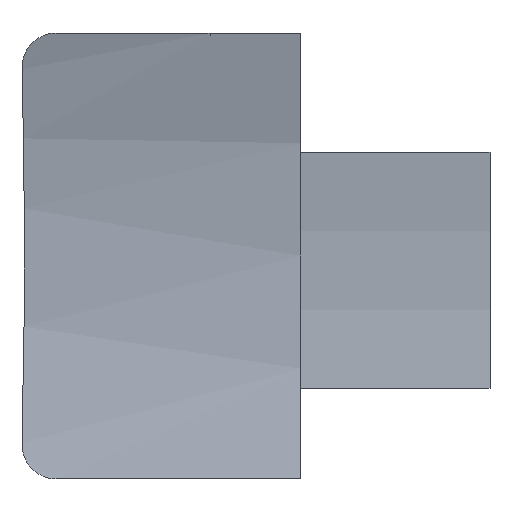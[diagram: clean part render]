
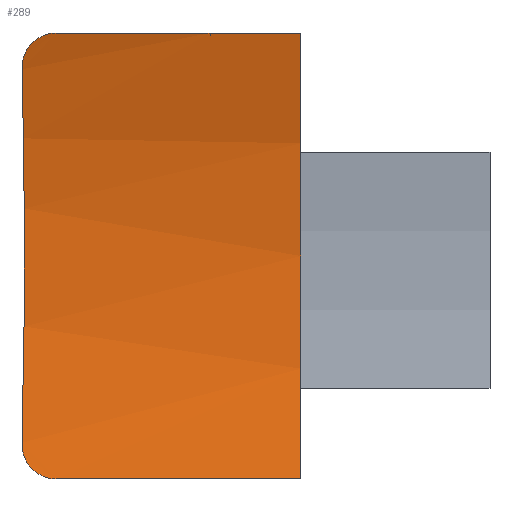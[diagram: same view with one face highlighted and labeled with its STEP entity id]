
A CAD part, left-side view. The second image highlights one B-rep face of the part: STEP entity #289.
In plain terms, the highlighted cylindrical face has radius 32 mm (diameter 64 mm), a partial arc.
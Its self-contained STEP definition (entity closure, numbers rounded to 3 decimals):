
#73 = VERTEX_POINT('',#74);
#74 = CARTESIAN_POINT('',(30.578,-1.494,9.434
    ));
#80 = EDGE_CURVE('',#73,#81,#83,.T.);
#81 = VERTEX_POINT('',#82);
#82 = CARTESIAN_POINT('',(30.578,-8.,9.434));
#83 = LINE('',#84,#85);
#84 = CARTESIAN_POINT('',(30.578,0.,9.434));
#85 = VECTOR('',#86,1.);
#86 = DIRECTION('',(0.,-1.,0.));
#210 = EDGE_CURVE('',#211,#213,#215,.T.);
#211 = VERTEX_POINT('',#212);
#212 = CARTESIAN_POINT('',(30.578,-1.494,
    -9.434));
#213 = VERTEX_POINT('',#214);
#214 = CARTESIAN_POINT('',(30.578,-11.85,-9.434));
#215 = LINE('',#216,#217);
#216 = CARTESIAN_POINT('',(30.578,-8.,-9.434));
#217 = VECTOR('',#218,1.);
#218 = DIRECTION('',(0.,-1.,0.));
#250 = EDGE_CURVE('',#251,#73,#253,.T.);
#251 = VERTEX_POINT('',#252);
#252 = CARTESIAN_POINT('',(31.009,-0.043,
    7.904));
#253 = B_SPLINE_CURVE_WITH_KNOTS('',6,(#254,#255,#256,#257,#258,#259,
    #260,#261,#262,#263,#264,#265,#266,#267,#268,#269,#270,#271,#272,
    #273,#274,#275),.UNSPECIFIED.,.F.,.F.,(7,5,5,5,7),(0.,0.305
    ,0.46,0.643,1.),.UNSPECIFIED.);
#254 = CARTESIAN_POINT('',(31.009,-0.043,
    7.904));
#255 = CARTESIAN_POINT('',(30.975,-0.04,
    8.037));
#256 = CARTESIAN_POINT('',(30.94,-0.05,
    8.171));
#257 = CARTESIAN_POINT('',(30.905,-0.074,
    8.303));
#258 = CARTESIAN_POINT('',(30.87,-0.111,
    8.43));
#259 = CARTESIAN_POINT('',(30.837,-0.16,
    8.55));
#260 = CARTESIAN_POINT('',(30.789,-0.249,
    8.719));
#261 = CARTESIAN_POINT('',(30.774,-0.281,
    8.774));
#262 = CARTESIAN_POINT('',(30.759,-0.317,
    8.826));
#263 = CARTESIAN_POINT('',(30.744,-0.354,
    8.876));
#264 = CARTESIAN_POINT('',(30.731,-0.393,8.924
    ));
#265 = CARTESIAN_POINT('',(30.702,-0.483,
    9.022));
#266 = CARTESIAN_POINT('',(30.687,-0.534,9.071
    ));
#267 = CARTESIAN_POINT('',(30.674,-0.588,
    9.117));
#268 = CARTESIAN_POINT('',(30.661,-0.643,
    9.159));
#269 = CARTESIAN_POINT('',(30.65,-0.701,
    9.198));
#270 = CARTESIAN_POINT('',(30.619,-0.873,9.301)
  );
#271 = CARTESIAN_POINT('',(30.602,-0.993,
    9.354));
#272 = CARTESIAN_POINT('',(30.59,-1.116,
    9.394));
#273 = CARTESIAN_POINT('',(30.582,-1.242,9.421
    ));
#274 = CARTESIAN_POINT('',(30.578,-1.368,
    9.434));
#275 = CARTESIAN_POINT('',(30.578,-1.494,
    9.434));
#289 = ADVANCED_FACE('',(#290),#344,.F.);
#290 = FACE_BOUND('',#291,.T.);
#291 = EDGE_LOOP('',(#292,#293,#302,#308,#309,#310,#319));
#292 = ORIENTED_EDGE('',*,*,#210,.T.);
#293 = ORIENTED_EDGE('',*,*,#294,.T.);
#294 = EDGE_CURVE('',#213,#295,#297,.T.);
#295 = VERTEX_POINT('',#296);
#296 = CARTESIAN_POINT('',(30.578,-11.85,9.434));
#297 = CIRCLE('',#298,32.);
#298 = AXIS2_PLACEMENT_3D('',#299,#300,#301);
#299 = CARTESIAN_POINT('',(0.,-11.85,0.));
#300 = DIRECTION('',(0.,-1.,0.));
#301 = DIRECTION('',(1.,0.,0.));
#302 = ORIENTED_EDGE('',*,*,#303,.F.);
#303 = EDGE_CURVE('',#81,#295,#304,.T.);
#304 = LINE('',#305,#306);
#305 = CARTESIAN_POINT('',(30.578,-8.,9.434));
#306 = VECTOR('',#307,1.);
#307 = DIRECTION('',(0.,-1.,0.));
#308 = ORIENTED_EDGE('',*,*,#80,.F.);
#309 = ORIENTED_EDGE('',*,*,#250,.F.);
#310 = ORIENTED_EDGE('',*,*,#311,.F.);
#311 = EDGE_CURVE('',#312,#251,#314,.T.);
#312 = VERTEX_POINT('',#313);
#313 = CARTESIAN_POINT('',(31.009,-0.043,
    -7.904));
#314 = ELLIPSE('',#315,32.16,32.);
#315 = AXIS2_PLACEMENT_3D('',#316,#317,#318);
#316 = CARTESIAN_POINT('',(0.,3.064,0.));
#317 = DIRECTION('',(-0.1,-0.995,0.));
#318 = DIRECTION('',(-0.995,0.1,
    0.));
#319 = ORIENTED_EDGE('',*,*,#320,.T.);
#320 = EDGE_CURVE('',#312,#211,#321,.T.);
#321 = B_SPLINE_CURVE_WITH_KNOTS('',6,(#322,#323,#324,#325,#326,#327,
    #328,#329,#330,#331,#332,#333,#334,#335,#336,#337,#338,#339,#340,
    #341,#342,#343),.UNSPECIFIED.,.F.,.F.,(7,5,5,5,7),(0.,0.305
    ,0.46,0.643,1.),.UNSPECIFIED.);
#322 = CARTESIAN_POINT('',(31.009,-0.043,
    -7.904));
#323 = CARTESIAN_POINT('',(30.975,-0.04,
    -8.037));
#324 = CARTESIAN_POINT('',(30.94,-0.05,
    -8.171));
#325 = CARTESIAN_POINT('',(30.905,-0.074,
    -8.303));
#326 = CARTESIAN_POINT('',(30.87,-0.111,
    -8.43));
#327 = CARTESIAN_POINT('',(30.837,-0.16,
    -8.55));
#328 = CARTESIAN_POINT('',(30.789,-0.249,
    -8.719));
#329 = CARTESIAN_POINT('',(30.774,-0.281,
    -8.774));
#330 = CARTESIAN_POINT('',(30.759,-0.317,
    -8.826));
#331 = CARTESIAN_POINT('',(30.744,-0.354,
    -8.876));
#332 = CARTESIAN_POINT('',(30.731,-0.393,
    -8.924));
#333 = CARTESIAN_POINT('',(30.702,-0.483,
    -9.022));
#334 = CARTESIAN_POINT('',(30.687,-0.534,
    -9.071));
#335 = CARTESIAN_POINT('',(30.674,-0.588,
    -9.117));
#336 = CARTESIAN_POINT('',(30.661,-0.643,
    -9.159));
#337 = CARTESIAN_POINT('',(30.65,-0.701,
    -9.198));
#338 = CARTESIAN_POINT('',(30.619,-0.873,-9.301
    ));
#339 = CARTESIAN_POINT('',(30.602,-0.993,
    -9.354));
#340 = CARTESIAN_POINT('',(30.59,-1.116,
    -9.394));
#341 = CARTESIAN_POINT('',(30.582,-1.242,
    -9.421));
#342 = CARTESIAN_POINT('',(30.578,-1.368,
    -9.434));
#343 = CARTESIAN_POINT('',(30.578,-1.494,
    -9.434));
#344 = CYLINDRICAL_SURFACE('',#345,32.);
#345 = AXIS2_PLACEMENT_3D('',#346,#347,#348);
#346 = CARTESIAN_POINT('',(0.,0.,0.));
#347 = DIRECTION('',(0.,1.,0.));
#348 = DIRECTION('',(1.,0.,0.));
